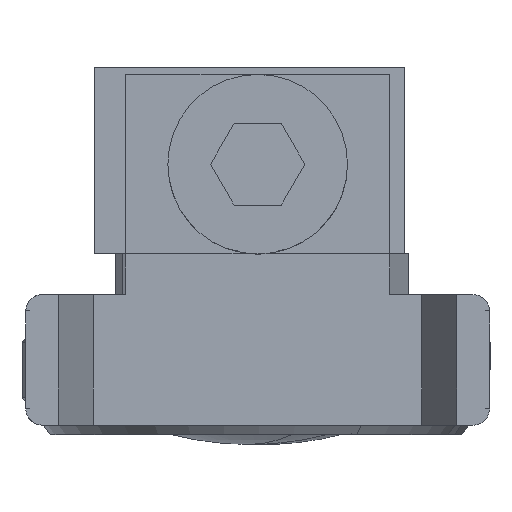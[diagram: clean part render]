
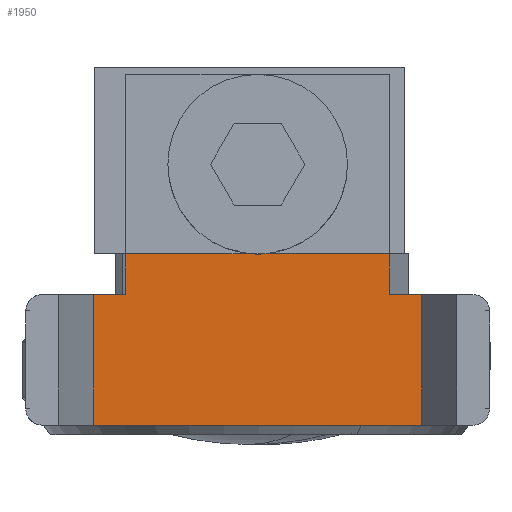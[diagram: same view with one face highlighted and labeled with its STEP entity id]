
A CAD part, left-side view. The second image highlights one B-rep face of the part: STEP entity #1950.
In plain terms, the highlighted planar face has unit normal (-1, 0, 0).
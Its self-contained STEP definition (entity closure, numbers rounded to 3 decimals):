
#64 = CARTESIAN_POINT ( 'NONE',  ( 4., 3.99, 0. ) ) ;
#107 = DIRECTION ( 'NONE',  ( 0., 0., 1. ) ) ;
#224 = CARTESIAN_POINT ( 'NONE',  ( 4., -4., 0. ) ) ;
#286 = CARTESIAN_POINT ( 'NONE',  ( 4., 1.25, -0.234 ) ) ;
#653 = CARTESIAN_POINT ( 'NONE',  ( 4., 1.25, -5.028 ) ) ;
#809 = CARTESIAN_POINT ( 'NONE',  ( 4., 0., -4.04 ) ) ;
#810 = CARTESIAN_POINT ( 'NONE',  ( 4., 0., 4.04 ) ) ;
#1066 = EDGE_CURVE ( 'NONE', #5989, #5733, #6091, .T. ) ;
#1075 = LINE ( 'NONE', #224, #4076 ) ;
#1184 = ORIENTED_EDGE ( 'NONE', *, *, #3944, .T. ) ;
#1212 = ORIENTED_EDGE ( 'NONE', *, *, #2251, .T. ) ;
#1251 = LINE ( 'NONE', #2338, #2874 ) ;
#1615 = VERTEX_POINT ( 'NONE', #5095 ) ;
#1711 = CARTESIAN_POINT ( 'NONE',  ( 4., 0., 5.028 ) ) ;
#1858 = DIRECTION ( 'NONE',  ( 0., -1., 0. ) ) ;
#1878 = ORIENTED_EDGE ( 'NONE', *, *, #2746, .T. ) ;
#1914 = VECTOR ( 'NONE', #6640, 1000. ) ;
#1950 = ADVANCED_FACE ( 'NONE', ( #5829 ), #3622, .T. ) ;
#2251 = EDGE_CURVE ( 'NONE', #4728, #4538, #3882, .T. ) ;
#2338 = CARTESIAN_POINT ( 'NONE',  ( 4., 0., 0. ) ) ;
#2440 = LINE ( 'NONE', #5867, #3719 ) ;
#2566 = ORIENTED_EDGE ( 'NONE', *, *, #4600, .F. ) ;
#2594 = CARTESIAN_POINT ( 'NONE',  ( 4., -4., -5.028 ) ) ;
#2734 = CARTESIAN_POINT ( 'NONE',  ( 4., -4., -5.028 ) ) ;
#2746 = EDGE_CURVE ( 'NONE', #4098, #3687, #3065, .T. ) ;
#2835 = DIRECTION ( 'NONE',  ( 0., 0., -1. ) ) ;
#2839 = DIRECTION ( 'NONE',  ( -1., 0., 0. ) ) ;
#2874 = VECTOR ( 'NONE', #5604, 1000. ) ;
#3065 = LINE ( 'NONE', #2734, #4684 ) ;
#3289 = CARTESIAN_POINT ( 'NONE',  ( 4., -4., 5.028 ) ) ;
#3291 = DIRECTION ( 'NONE',  ( 0., -1., 0. ) ) ;
#3444 = EDGE_CURVE ( 'NONE', #4098, #4808, #1251, .T. ) ;
#3548 = ORIENTED_EDGE ( 'NONE', *, *, #6007, .F. ) ;
#3622 = PLANE ( 'NONE',  #4143 ) ;
#3687 = VERTEX_POINT ( 'NONE', #5250 ) ;
#3719 = VECTOR ( 'NONE', #6979, 1000. ) ;
#3848 = CARTESIAN_POINT ( 'NONE',  ( 4., -4., 5.028 ) ) ;
#3882 = LINE ( 'NONE', #6074, #1914 ) ;
#3944 = EDGE_CURVE ( 'NONE', #5989, #4908, #4490, .T. ) ;
#3993 = VECTOR ( 'NONE', #2835, 1000. ) ;
#4043 = CARTESIAN_POINT ( 'NONE',  ( 4., 0., -5.028 ) ) ;
#4060 = DIRECTION ( 'NONE',  ( 0., -1., 0. ) ) ;
#4067 = LINE ( 'NONE', #5120, #5161 ) ;
#4076 = VECTOR ( 'NONE', #6166, 1000. ) ;
#4098 = VERTEX_POINT ( 'NONE', #4043 ) ;
#4133 = EDGE_CURVE ( 'NONE', #3687, #5810, #1075, .T. ) ;
#4143 = AXIS2_PLACEMENT_3D ( 'NONE', #2594, #5326, #6340 ) ;
#4407 = DIRECTION ( 'NONE',  ( 0., -1., 0. ) ) ;
#4490 = LINE ( 'NONE', #653, #3993 ) ;
#4538 = VERTEX_POINT ( 'NONE', #6533 ) ;
#4543 = ORIENTED_EDGE ( 'NONE', *, *, #3444, .F. ) ;
#4600 = EDGE_CURVE ( 'NONE', #4728, #5810, #6690, .T. ) ;
#4684 = VECTOR ( 'NONE', #3291, 1000. ) ;
#4728 = VERTEX_POINT ( 'NONE', #1711 ) ;
#4808 = VERTEX_POINT ( 'NONE', #809 ) ;
#4867 = CARTESIAN_POINT ( 'NONE',  ( 4., 1.25, 0.234 ) ) ;
#4908 = VERTEX_POINT ( 'NONE', #5184 ) ;
#4945 = EDGE_CURVE ( 'NONE', #4908, #4808, #4067, .T. ) ;
#4968 = ORIENTED_EDGE ( 'NONE', *, *, #1066, .F. ) ;
#5095 = CARTESIAN_POINT ( 'NONE',  ( 4., 1.25, 4.04 ) ) ;
#5120 = CARTESIAN_POINT ( 'NONE',  ( 4., 0., -4.04 ) ) ;
#5161 = VECTOR ( 'NONE', #1858, 1000. ) ;
#5184 = CARTESIAN_POINT ( 'NONE',  ( 4., 1.25, -4.04 ) ) ;
#5250 = CARTESIAN_POINT ( 'NONE',  ( 4., -4., -5.028 ) ) ;
#5326 = DIRECTION ( 'NONE',  ( -1., 0., 0. ) ) ;
#5411 = VECTOR ( 'NONE', #4060, 1000. ) ;
#5604 = DIRECTION ( 'NONE',  ( 0., 0., 1. ) ) ;
#5635 = AXIS2_PLACEMENT_3D ( 'NONE', #64, #2839, #107 ) ;
#5645 = ORIENTED_EDGE ( 'NONE', *, *, #4945, .T. ) ;
#5733 = VERTEX_POINT ( 'NONE', #4867 ) ;
#5791 = EDGE_LOOP ( 'NONE', ( #1212, #3548, #5870, #4968, #1184, #5645, #4543, #1878, #6341, #2566 ) ) ;
#5810 = VERTEX_POINT ( 'NONE', #3848 ) ;
#5829 = FACE_OUTER_BOUND ( 'NONE', #5791, .T. ) ;
#5867 = CARTESIAN_POINT ( 'NONE',  ( 4., 1.25, -5.028 ) ) ;
#5870 = ORIENTED_EDGE ( 'NONE', *, *, #6239, .T. ) ;
#5989 = VERTEX_POINT ( 'NONE', #286 ) ;
#6007 = EDGE_CURVE ( 'NONE', #1615, #4538, #6344, .T. ) ;
#6074 = CARTESIAN_POINT ( 'NONE',  ( 4., 0., -5.028 ) ) ;
#6091 = CIRCLE ( 'NONE', #5635, 2.75 ) ;
#6166 = DIRECTION ( 'NONE',  ( 0., 0., 1. ) ) ;
#6239 = EDGE_CURVE ( 'NONE', #1615, #5733, #2440, .T. ) ;
#6340 = DIRECTION ( 'NONE',  ( 0., 0., 1. ) ) ;
#6341 = ORIENTED_EDGE ( 'NONE', *, *, #4133, .T. ) ;
#6344 = LINE ( 'NONE', #810, #5411 ) ;
#6533 = CARTESIAN_POINT ( 'NONE',  ( 4., 0., 4.04 ) ) ;
#6640 = DIRECTION ( 'NONE',  ( 0., 0., -1. ) ) ;
#6690 = LINE ( 'NONE', #3289, #7022 ) ;
#6979 = DIRECTION ( 'NONE',  ( 0., 0., -1. ) ) ;
#7022 = VECTOR ( 'NONE', #4407, 1000. ) ;
